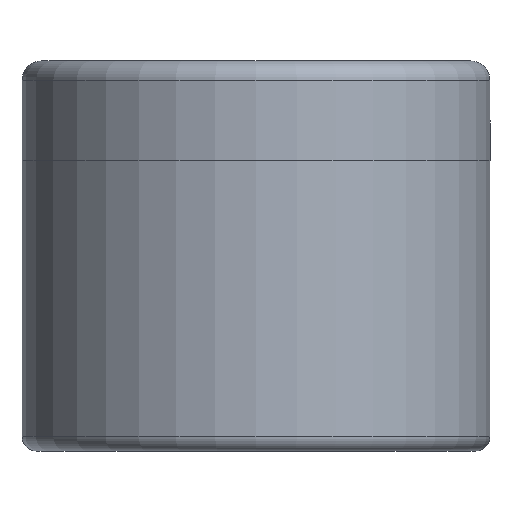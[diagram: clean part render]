
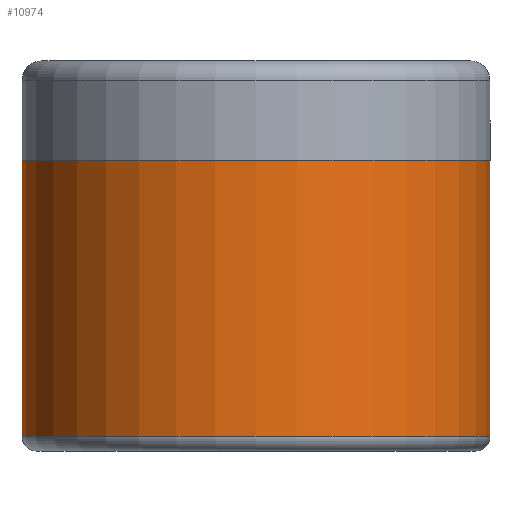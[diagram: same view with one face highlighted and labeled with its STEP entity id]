
A CAD part, left-side view. The second image highlights one B-rep face of the part: STEP entity #10974.
In plain terms, the highlighted cylindrical face has radius 12 mm (diameter 24 mm), a partial arc.
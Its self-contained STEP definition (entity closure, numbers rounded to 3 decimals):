
#402=CYLINDRICAL_SURFACE('',#11655,12.);
#1132=FACE_OUTER_BOUND('',#1780,.T.);
#1780=EDGE_LOOP('',(#8866,#8867,#8868,#8869));
#2219=CIRCLE('',#11654,12.);
#2220=CIRCLE('',#11656,12.);
#2913=LINE('',#16801,#4165);
#2914=LINE('',#16804,#4166);
#4165=VECTOR('',#13181,10.);
#4166=VECTOR('',#13184,10.);
#5318=VERTEX_POINT('',#16784);
#5321=VERTEX_POINT('',#16794);
#5322=VERTEX_POINT('',#16800);
#5323=VERTEX_POINT('',#16802);
#6593=EDGE_CURVE('',#5318,#5321,#2219,.T.);
#6594=EDGE_CURVE('',#5318,#5322,#2913,.T.);
#6595=EDGE_CURVE('',#5323,#5322,#2220,.T.);
#6596=EDGE_CURVE('',#5321,#5323,#2914,.T.);
#8866=ORIENTED_EDGE('',*,*,#6593,.F.);
#8867=ORIENTED_EDGE('',*,*,#6594,.T.);
#8868=ORIENTED_EDGE('',*,*,#6595,.F.);
#8869=ORIENTED_EDGE('',*,*,#6596,.F.);
#10974=ADVANCED_FACE('',(#1132),#402,.T.);
#11654=AXIS2_PLACEMENT_3D('',#16798,#13177,#13178);
#11655=AXIS2_PLACEMENT_3D('',#16799,#13179,#13180);
#11656=AXIS2_PLACEMENT_3D('',#16803,#13182,#13183);
#13177=DIRECTION('center_axis',(0.,-1.,0.));
#13178=DIRECTION('ref_axis',(1.,0.,0.));
#13179=DIRECTION('center_axis',(0.,1.,0.));
#13180=DIRECTION('ref_axis',(0.,0.,1.));
#13181=DIRECTION('',(0.,1.,0.));
#13182=DIRECTION('center_axis',(0.,1.,0.));
#13183=DIRECTION('ref_axis',(0.,0.,1.));
#13184=DIRECTION('',(0.,1.,0.));
#16784=CARTESIAN_POINT('',(41.4,0.75,-12.));
#16794=CARTESIAN_POINT('',(41.4,0.75,12.));
#16798=CARTESIAN_POINT('Origin',(41.4,0.75,0.));
#16799=CARTESIAN_POINT('Origin',(41.4,7.45,0.));
#16800=CARTESIAN_POINT('',(41.4,14.9,-12.));
#16801=CARTESIAN_POINT('',(41.4,14.9,-12.));
#16802=CARTESIAN_POINT('',(41.4,14.9,12.));
#16803=CARTESIAN_POINT('Origin',(41.4,14.9,0.));
#16804=CARTESIAN_POINT('',(41.4,14.9,12.));
